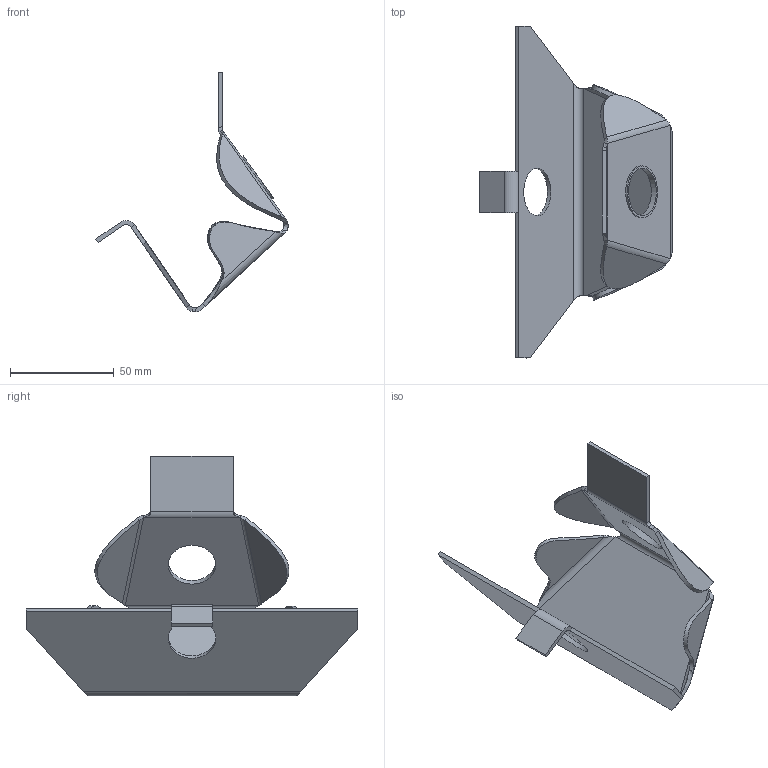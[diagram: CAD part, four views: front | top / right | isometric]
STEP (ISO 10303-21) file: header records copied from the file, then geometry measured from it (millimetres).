
FILE_DESCRIPTION(/* description */ ('STEP AP242','CAx-IF Rec.Pracs.---Representation and Presentation of Product Manufacturing Information (PMI)---4.0---2014-10-13','CAx-IF Rec.Pracs.---3D Tessellated Geometry---0.4---2014-09-14','2;1'),/* implementation_level */ '2;1');
FILE_NAME(/* name */ '674d52aaa116235ee6fe5459',/* time_stamp */ '2024-12-02T06:24:43Z',/* author */ (''),/* organization */ (''),/* preprocessor_version */ 'ST-DEVELOPER v20',/* originating_system */ 'ONSHAPE BY PTC INC, 1.190',/* authorisation */ ' ');
FILE_SCHEMA (('AP242_MANAGED_MODEL_BASED_3D_ENGINEERING_MIM_LF { 1 0 10303 442 1 1 4 }'));
Length unit declared in the file: metre
Products named in the file (1): styrkapa_v2
Bounding box: 92.69 x 160 x 115.65 mm (x, y, z)
Volume: 37412.4 mm3; surface area: 39301.1 mm2
Topology: 1 solids, 1 shells, 80 faces, 189 edges, 112 vertices
Faces by surface type: plane 35, bspline 26, cylinder 19
Full cylindrical faces by diameter (mm): 23 x2, 25 x1
Entity records: 3187 total; most frequent: CARTESIAN_POINT 1556, ORIENTED_EDGE 370, DIRECTION 245, EDGE_CURVE 185, VERTEX_POINT 111, LINE 103, VECTOR 103, EDGE_LOOP 88
